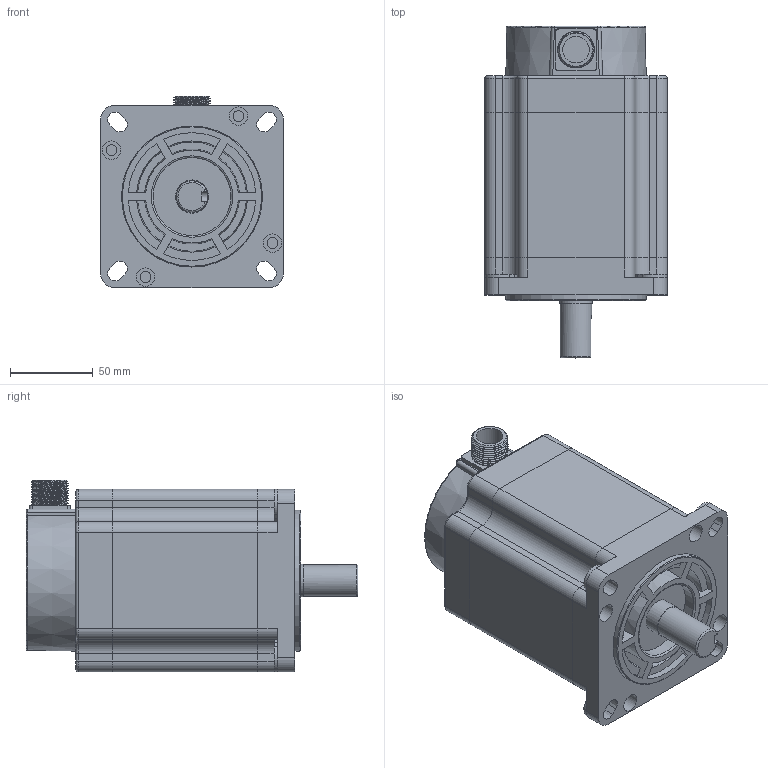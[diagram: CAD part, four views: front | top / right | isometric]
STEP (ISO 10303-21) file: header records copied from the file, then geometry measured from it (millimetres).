
FILE_DESCRIPTION(/* description */ (''),/* implementation_level */ '2;1');
FILE_NAME(/* name */ '110BYG350B(止口φ85).stp',/* time_stamp */ '2024-08-15T16:38:26+08:00',/* author */ (''),/* organization */ (''),/* preprocessor_version */ 'ST-DEVELOPER v18.1',/* originating_system */ 'SIEMENS PLM Software NX 2000',/* authorisation */ '');
FILE_SCHEMA (('AUTOMOTIVE_DESIGN { 1 0 10303 214 3 1 1 1 }'));
Length unit declared in the file: millimetre
Products named in the file (1): 925032A4A3696syc
Bounding box: 110 x 200 x 115.5 mm (x, y, z)
Volume: 1565410.4 mm3; surface area: 155847.2 mm2
Topology: 5 solids, 5 shells, 292 faces, 733 edges, 477 vertices
Faces by surface type: plane 131, cylinder 118, cone 24, torus 15, bspline 4
Full cylindrical faces by diameter (mm): 3 x4, 6 x4, 6.5 x8, 11 x4, 16 x1, 19 x1, 19.7 x1, 20 x2, 47 x1, 85 x1
Entity records: 11050 total; most frequent: CARTESIAN_POINT 4002, DIRECTION 1508, ORIENTED_EDGE 1374, EDGE_CURVE 687, AXIS2_PLACEMENT_3D 573, VERTEX_POINT 462, EDGE_LOOP 371, LINE 362
